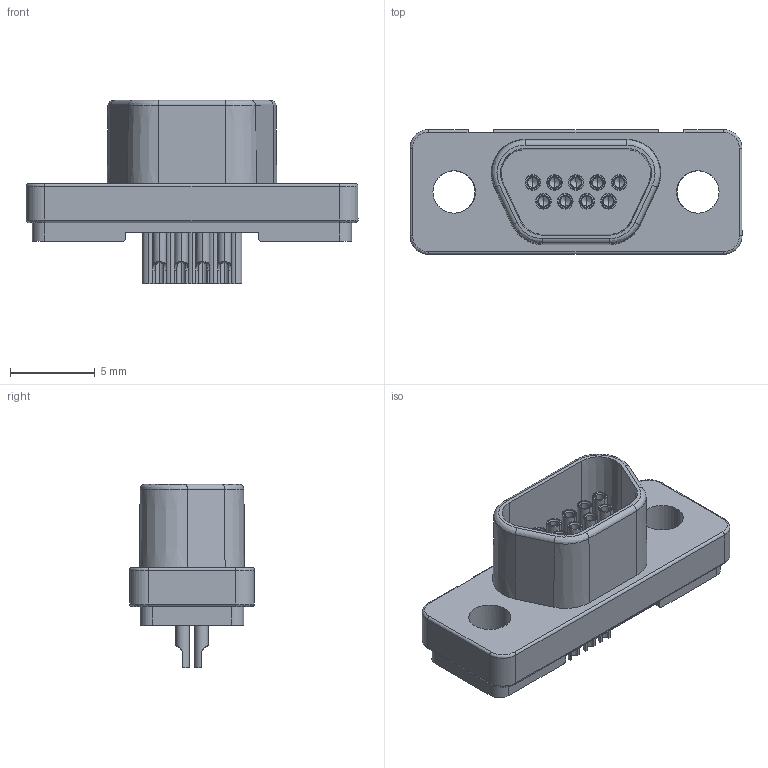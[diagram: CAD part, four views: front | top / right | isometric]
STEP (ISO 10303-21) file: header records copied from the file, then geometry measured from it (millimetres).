
FILE_DESCRIPTION (( 'STEP AP203' ), '1' );
FILE_NAME ('380-009-203L001.STEP', '2025-01-17T20:29:53', ( '' ), ( '' ), 'SwSTEP 2.0', 'SolidWorks 2020', '' );
FILE_SCHEMA (( 'CONFIG_CONTROL_DESIGN' ));
Length unit declared in the file: millimetre
Products named in the file (1): 380-009-203L001
Bounding box: 19.55 x 7.35 x 10.8 mm (x, y, z)
Volume: 478.1 mm3; surface area: 1067.9 mm2
Topology: 19 solids, 19 shells, 414 faces, 983 edges, 601 vertices
Faces by surface type: cylinder 209, plane 113, cone 80, bspline 12
Entity records: 12399 total; most frequent: CARTESIAN_POINT 2706, DIRECTION 2132, ORIENTED_EDGE 1894, EDGE_CURVE 947, AXIS2_PLACEMENT_3D 853, VERTEX_POINT 601, EDGE_LOOP 484, CIRCLE 450
